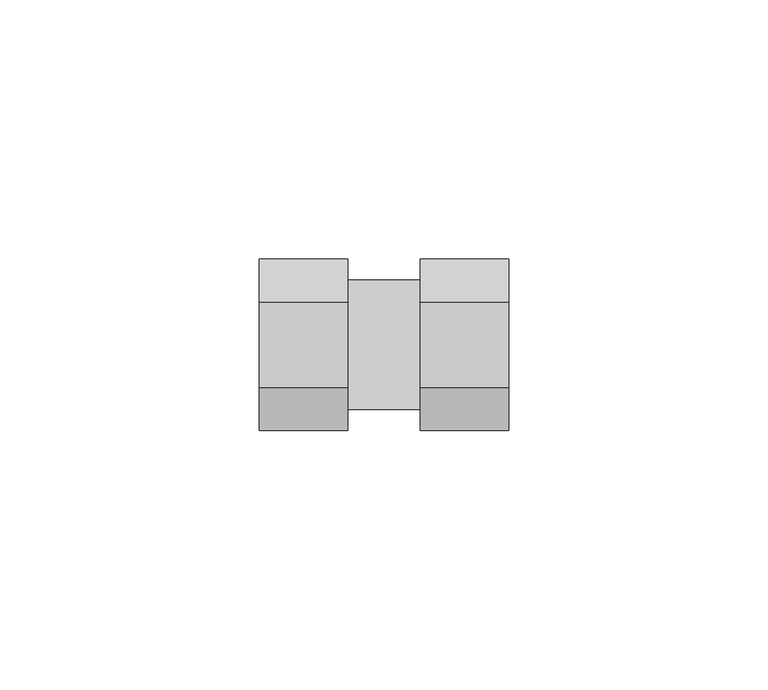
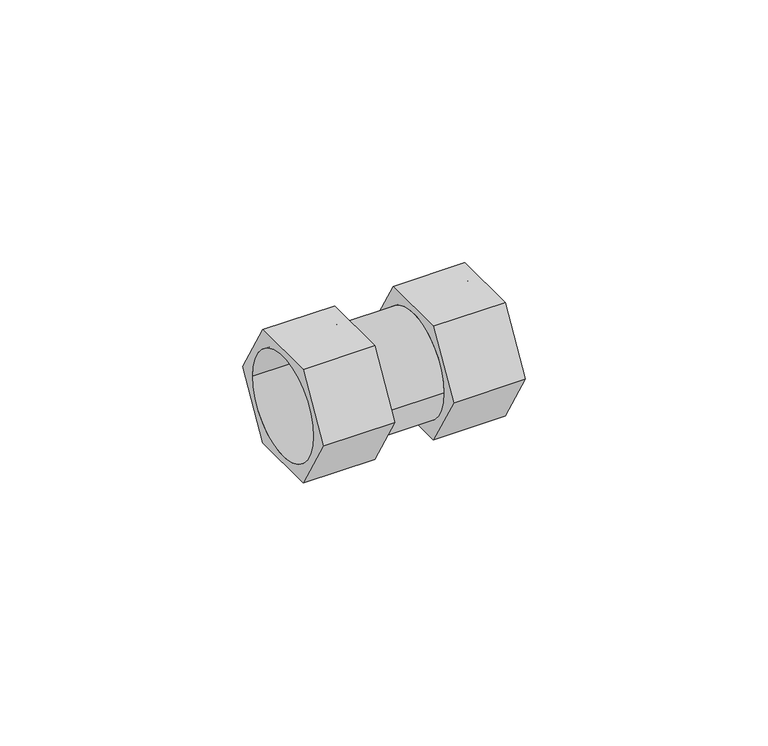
"""IFC4 building model written with IfcOpenShell, lengths in millimetres: pipe fitting geometry, БИР ПЕКС_КМП_Муфта редукционная : Муфта ПЕКС Редукционная."""

from ifc_helpers import new_model, si_unit, point, frame, origin, origin_2d, place, context, project, spatial, polyline, circle_curve, trimmed, segment, composite_curve, outline, extrude, source, transform, mapped, element, save


def pipe_fitting_d7a32689(model_context):
    return source(origin(), model_context, "Body", "SweptSolid", [
        extrude(outline(polyline([(-8.25, -14.2894192), (-16.5, 0.0), (-8.25, 14.2894192), (8.25, 14.2894192), (16.5, 0.0), (8.25, -14.2894192), (-8.25, -14.2894192)]), holes=[composite_curve([segment(trimmed(circle_curve(origin_2d(), 12.5), [point((-12.5, 0.0))], [point((12.5, 0.0))], True, "CARTESIAN"), True, "CONTINUOUS"), segment(trimmed(circle_curve(origin_2d(), 12.5), [point((12.5, 0.0))], [point((-12.5, 0.0))], True, "CARTESIAN"), True, "CONTINUOUS")], self_intersect=False)]), frame((7.0, 0.0, 0.0), z_axis=(1.0, 0.0, 0.0), x_axis=(0.0, 1.0, 0.0)), (0.0, 0.0, 1.0), 17.0),
        extrude(outline(polyline([(-8.25, -14.2894192), (-16.5, 0.0), (-8.25, 14.2894192), (8.25, 14.2894192), (16.5, 0.0), (8.25, -14.2894192), (-8.25, -14.2894192)]), holes=[composite_curve([segment(trimmed(circle_curve(origin_2d(), 12.5), [point((-12.5, 0.0))], [point((12.5, 0.0))], True, "CARTESIAN"), True, "CONTINUOUS"), segment(trimmed(circle_curve(origin_2d(), 12.5), [point((12.5, 0.0))], [point((-12.5, 0.0))], True, "CARTESIAN"), True, "CONTINUOUS")], self_intersect=False)]), frame((-24.0, 0.0, 0.0), z_axis=(1.0, 0.0, 0.0), x_axis=(0.0, 1.0, 0.0)), (0.0, 0.0, 1.0), 17.0),
        extrude(outline(composite_curve([segment(trimmed(circle_curve(origin_2d(), 12.5), [point((-12.5, 0.0))], [point((12.5, 0.0))], False, "CARTESIAN"), True, "CONTINUOUS"), segment(trimmed(circle_curve(origin_2d(), 12.5), [point((12.5, 0.0))], [point((-12.5, 0.0))], False, "CARTESIAN"), True, "CONTINUOUS")], self_intersect=False)), frame((-7.0, 0.0, 0.0), z_axis=(1.0, 0.0, 0.0), x_axis=(0.0, 1.0, 0.0)), (0.0, 0.0, 1.0), 14.0),
    ])


if __name__ == "__main__":
    model = new_model("IFC4")
    model_context = context("Model", 3, world=origin())
    ifc_project = project(units=[si_unit("LENGTHUNIT", "METRE", prefix="MILLI")], contexts=[model_context])
    site = spatial("IfcSite", under=ifc_project)
    building = spatial("IfcBuilding", under=site)
    placement = place(None, origin())
    pipe_fitting_shape = pipe_fitting_d7a32689(model_context)
    element("IfcPipeFitting", 1, ObjectType="БИР ПЕКС_КМП_Муфта редукционная : Муфта ПЕКС Редукционная", at=placement, inside=building, context=model_context, shape_type="MappedRepresentation", body=[
        mapped(pipe_fitting_shape, transform((0.0, 0.0, 0.0), x_axis=(1.0, 0.0, 0.0), y_axis=(0.0, 1.0, 0.0), z_axis=(0.0, 0.0, 1.0))),
    ])
    save(model, "model.ifc")
